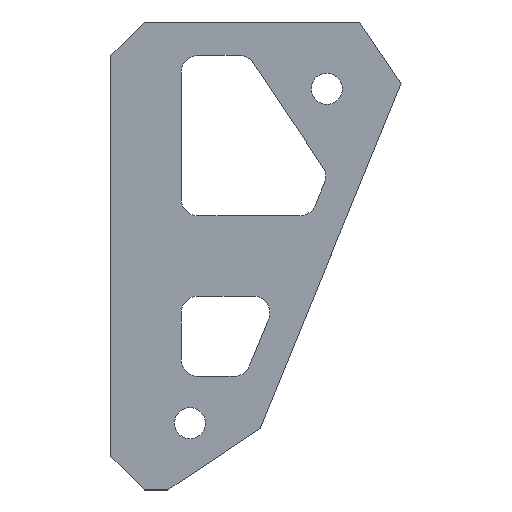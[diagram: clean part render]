
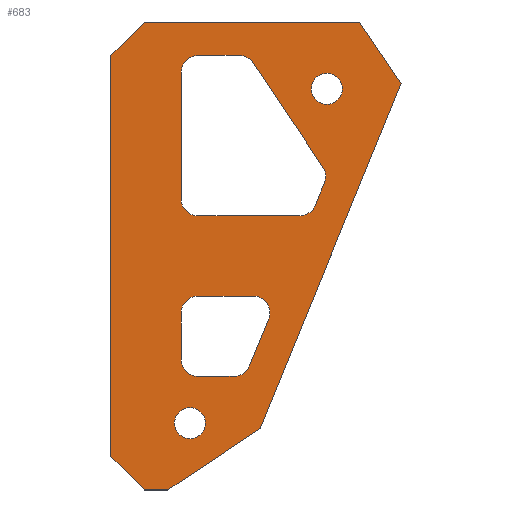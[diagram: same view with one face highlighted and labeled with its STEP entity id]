
A CAD part, top view. The second image highlights one B-rep face of the part: STEP entity #683.
In plain terms, the highlighted planar face has unit normal (0, 0, 1).
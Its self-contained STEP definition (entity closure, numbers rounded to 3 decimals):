
#84=FACE_BOUND('',#170,.T.);
#85=FACE_BOUND('',#171,.T.);
#86=FACE_BOUND('',#172,.T.);
#87=FACE_BOUND('',#173,.T.);
#109=PLANE('',#758);
#139=FACE_OUTER_BOUND('',#169,.T.);
#169=EDGE_LOOP('',(#588,#589,#590,#591,#592,#593,#594,#595));
#170=EDGE_LOOP('',(#596));
#171=EDGE_LOOP('',(#597));
#172=EDGE_LOOP('',(#598,#599,#600,#601,#602,#603,#604,#605,#606,#607));
#173=EDGE_LOOP('',(#608,#609,#610,#611,#612,#613,#614,#615));
#182=LINE('',#987,#244);
#186=LINE('',#999,#248);
#190=LINE('',#1011,#252);
#194=LINE('',#1021,#256);
#198=LINE('',#1035,#260);
#202=LINE('',#1047,#264);
#206=LINE('',#1059,#268);
#210=LINE('',#1071,#272);
#214=LINE('',#1081,#276);
#219=LINE('',#1101,#281);
#222=LINE('',#1107,#284);
#225=LINE('',#1113,#287);
#228=LINE('',#1119,#290);
#231=LINE('',#1125,#293);
#234=LINE('',#1131,#296);
#237=LINE('',#1137,#299);
#240=LINE('',#1141,#302);
#244=VECTOR('',#788,10.);
#248=VECTOR('',#800,10.);
#252=VECTOR('',#812,10.);
#256=VECTOR('',#824,10.);
#260=VECTOR('',#836,10.);
#264=VECTOR('',#848,10.);
#268=VECTOR('',#860,10.);
#272=VECTOR('',#872,10.);
#276=VECTOR('',#884,10.);
#281=VECTOR('',#903,10.);
#284=VECTOR('',#908,10.);
#287=VECTOR('',#913,10.);
#290=VECTOR('',#918,10.);
#293=VECTOR('',#923,10.);
#296=VECTOR('',#928,10.);
#299=VECTOR('',#933,10.);
#302=VECTOR('',#938,10.);
#304=CIRCLE('',#710,5.);
#306=CIRCLE('',#714,5.);
#308=CIRCLE('',#718,5.);
#310=CIRCLE('',#722,5.);
#312=CIRCLE('',#726,5.);
#314=CIRCLE('',#730,5.);
#316=CIRCLE('',#734,5.);
#318=CIRCLE('',#738,5.);
#320=CIRCLE('',#742,5.);
#321=CIRCLE('',#745,4.65);
#323=CIRCLE('',#748,4.65);
#338=VERTEX_POINT('',#978);
#339=VERTEX_POINT('',#980);
#341=VERTEX_POINT('',#986);
#343=VERTEX_POINT('',#992);
#345=VERTEX_POINT('',#998);
#347=VERTEX_POINT('',#1004);
#349=VERTEX_POINT('',#1010);
#351=VERTEX_POINT('',#1016);
#354=VERTEX_POINT('',#1026);
#355=VERTEX_POINT('',#1028);
#357=VERTEX_POINT('',#1034);
#359=VERTEX_POINT('',#1040);
#361=VERTEX_POINT('',#1046);
#363=VERTEX_POINT('',#1052);
#365=VERTEX_POINT('',#1058);
#367=VERTEX_POINT('',#1064);
#369=VERTEX_POINT('',#1070);
#371=VERTEX_POINT('',#1076);
#372=VERTEX_POINT('',#1083);
#374=VERTEX_POINT('',#1089);
#378=VERTEX_POINT('',#1098);
#379=VERTEX_POINT('',#1100);
#381=VERTEX_POINT('',#1106);
#383=VERTEX_POINT('',#1112);
#385=VERTEX_POINT('',#1118);
#387=VERTEX_POINT('',#1124);
#389=VERTEX_POINT('',#1130);
#391=VERTEX_POINT('',#1136);
#394=EDGE_CURVE('',#339,#338,#304,.T.);
#397=EDGE_CURVE('',#341,#339,#182,.T.);
#400=EDGE_CURVE('',#343,#341,#306,.T.);
#403=EDGE_CURVE('',#345,#343,#186,.T.);
#406=EDGE_CURVE('',#347,#345,#308,.T.);
#409=EDGE_CURVE('',#349,#347,#190,.T.);
#412=EDGE_CURVE('',#351,#349,#310,.T.);
#415=EDGE_CURVE('',#338,#351,#194,.T.);
#418=EDGE_CURVE('',#355,#354,#312,.T.);
#421=EDGE_CURVE('',#357,#355,#198,.T.);
#424=EDGE_CURVE('',#359,#357,#314,.T.);
#427=EDGE_CURVE('',#361,#359,#202,.T.);
#430=EDGE_CURVE('',#363,#361,#316,.T.);
#433=EDGE_CURVE('',#365,#363,#206,.T.);
#436=EDGE_CURVE('',#367,#365,#318,.T.);
#439=EDGE_CURVE('',#369,#367,#210,.T.);
#442=EDGE_CURVE('',#371,#369,#320,.T.);
#445=EDGE_CURVE('',#354,#371,#214,.T.);
#446=EDGE_CURVE('',#372,#372,#321,.T.);
#449=EDGE_CURVE('',#374,#374,#323,.T.);
#454=EDGE_CURVE('',#379,#378,#219,.T.);
#457=EDGE_CURVE('',#381,#379,#222,.T.);
#460=EDGE_CURVE('',#383,#381,#225,.T.);
#463=EDGE_CURVE('',#385,#383,#228,.T.);
#466=EDGE_CURVE('',#387,#385,#231,.T.);
#469=EDGE_CURVE('',#389,#387,#234,.T.);
#472=EDGE_CURVE('',#391,#389,#237,.T.);
#475=EDGE_CURVE('',#378,#391,#240,.T.);
#588=ORIENTED_EDGE('',*,*,#475,.T.);
#589=ORIENTED_EDGE('',*,*,#472,.T.);
#590=ORIENTED_EDGE('',*,*,#469,.T.);
#591=ORIENTED_EDGE('',*,*,#466,.T.);
#592=ORIENTED_EDGE('',*,*,#463,.T.);
#593=ORIENTED_EDGE('',*,*,#460,.T.);
#594=ORIENTED_EDGE('',*,*,#457,.T.);
#595=ORIENTED_EDGE('',*,*,#454,.T.);
#596=ORIENTED_EDGE('',*,*,#449,.T.);
#597=ORIENTED_EDGE('',*,*,#446,.T.);
#598=ORIENTED_EDGE('',*,*,#445,.T.);
#599=ORIENTED_EDGE('',*,*,#442,.T.);
#600=ORIENTED_EDGE('',*,*,#439,.T.);
#601=ORIENTED_EDGE('',*,*,#436,.T.);
#602=ORIENTED_EDGE('',*,*,#433,.T.);
#603=ORIENTED_EDGE('',*,*,#430,.T.);
#604=ORIENTED_EDGE('',*,*,#427,.T.);
#605=ORIENTED_EDGE('',*,*,#424,.T.);
#606=ORIENTED_EDGE('',*,*,#421,.T.);
#607=ORIENTED_EDGE('',*,*,#418,.T.);
#608=ORIENTED_EDGE('',*,*,#415,.T.);
#609=ORIENTED_EDGE('',*,*,#412,.T.);
#610=ORIENTED_EDGE('',*,*,#409,.T.);
#611=ORIENTED_EDGE('',*,*,#406,.T.);
#612=ORIENTED_EDGE('',*,*,#403,.T.);
#613=ORIENTED_EDGE('',*,*,#400,.T.);
#614=ORIENTED_EDGE('',*,*,#397,.T.);
#615=ORIENTED_EDGE('',*,*,#394,.T.);
#683=ADVANCED_FACE('',(#139,#84,#85,#86,#87),#109,.T.);
#710=AXIS2_PLACEMENT_3D('',#981,#782,#783);
#714=AXIS2_PLACEMENT_3D('',#993,#794,#795);
#718=AXIS2_PLACEMENT_3D('',#1005,#806,#807);
#722=AXIS2_PLACEMENT_3D('',#1017,#818,#819);
#726=AXIS2_PLACEMENT_3D('',#1029,#830,#831);
#730=AXIS2_PLACEMENT_3D('',#1041,#842,#843);
#734=AXIS2_PLACEMENT_3D('',#1053,#854,#855);
#738=AXIS2_PLACEMENT_3D('',#1065,#866,#867);
#742=AXIS2_PLACEMENT_3D('',#1077,#878,#879);
#745=AXIS2_PLACEMENT_3D('',#1084,#887,#888);
#748=AXIS2_PLACEMENT_3D('',#1090,#894,#895);
#758=AXIS2_PLACEMENT_3D('',#1142,#939,#940);
#782=DIRECTION('center_axis',(0.,0.,-1.));
#783=DIRECTION('ref_axis',(1.,0.,0.));
#788=DIRECTION('',(-1.,0.,0.));
#794=DIRECTION('center_axis',(0.,0.,-1.));
#795=DIRECTION('ref_axis',(0.,1.,0.));
#800=DIRECTION('',(-0.379,-0.925,0.));
#806=DIRECTION('center_axis',(0.,0.,-1.));
#807=DIRECTION('ref_axis',(-0.925,0.379,0.));
#812=DIRECTION('',(1.,0.,0.));
#818=DIRECTION('center_axis',(0.,0.,-1.));
#819=DIRECTION('ref_axis',(0.,-1.,0.));
#824=DIRECTION('',(0.,1.,0.));
#830=DIRECTION('center_axis',(0.,0.,-1.));
#831=DIRECTION('ref_axis',(-0.925,0.379,0.));
#836=DIRECTION('',(0.557,-0.83,0.));
#842=DIRECTION('center_axis',(0.,0.,-1.));
#843=DIRECTION('ref_axis',(-0.83,-0.557,0.));
#848=DIRECTION('',(1.,0.,0.));
#854=DIRECTION('center_axis',(0.,0.,-1.));
#855=DIRECTION('ref_axis',(0.,-1.,0.));
#860=DIRECTION('',(0.,1.,0.));
#866=DIRECTION('center_axis',(0.,0.,-1.));
#867=DIRECTION('ref_axis',(1.,0.,0.));
#872=DIRECTION('',(-1.,0.,0.));
#878=DIRECTION('center_axis',(0.,0.,-1.));
#879=DIRECTION('ref_axis',(0.,1.,0.));
#884=DIRECTION('',(-0.379,-0.925,0.));
#887=DIRECTION('center_axis',(0.,0.,-1.));
#888=DIRECTION('ref_axis',(-1.,0.,0.));
#894=DIRECTION('center_axis',(0.,0.,-1.));
#895=DIRECTION('ref_axis',(-1.,0.,0.));
#903=DIRECTION('',(1.,0.,0.));
#908=DIRECTION('',(0.707,-0.707,0.));
#913=DIRECTION('',(0.,-1.,0.));
#918=DIRECTION('',(-0.707,-0.707,0.));
#923=DIRECTION('',(-1.,0.,0.));
#928=DIRECTION('',(-0.557,0.83,0.));
#933=DIRECTION('',(0.379,0.925,0.));
#938=DIRECTION('',(0.83,0.557,0.));
#939=DIRECTION('center_axis',(0.,0.,1.));
#940=DIRECTION('ref_axis',(1.,0.,0.));
#978=CARTESIAN_POINT('',(-1.5,-101.,0.25));
#980=CARTESIAN_POINT('',(3.5,-106.,0.25));
#981=CARTESIAN_POINT('Origin',(3.5,-101.,0.25));
#986=CARTESIAN_POINT('',(14.324,-106.,0.25));
#987=CARTESIAN_POINT('',(14.324,-106.,0.25));
#992=CARTESIAN_POINT('',(18.952,-102.894,0.25));
#993=CARTESIAN_POINT('Origin',(14.324,-101.,0.25));
#998=CARTESIAN_POINT('',(24.682,-88.894,0.25));
#999=CARTESIAN_POINT('',(24.682,-88.894,0.25));
#1004=CARTESIAN_POINT('',(20.055,-82.,0.25));
#1005=CARTESIAN_POINT('Origin',(20.055,-87.,0.25));
#1010=CARTESIAN_POINT('',(3.5,-82.,0.25));
#1011=CARTESIAN_POINT('',(3.5,-82.,0.25));
#1016=CARTESIAN_POINT('',(-1.5,-87.,0.25));
#1017=CARTESIAN_POINT('Origin',(3.5,-87.,0.25));
#1021=CARTESIAN_POINT('',(-1.5,-101.,0.25));
#1026=CARTESIAN_POINT('',(41.391,-48.072,0.25));
#1028=CARTESIAN_POINT('',(40.915,-43.391,0.25));
#1029=CARTESIAN_POINT('Origin',(36.764,-46.178,0.25));
#1034=CARTESIAN_POINT('',(19.989,-12.213,0.25));
#1035=CARTESIAN_POINT('',(19.989,-12.213,0.25));
#1040=CARTESIAN_POINT('',(15.837,-10.,0.25));
#1041=CARTESIAN_POINT('Origin',(15.837,-15.,0.25));
#1046=CARTESIAN_POINT('',(3.5,-10.,0.25));
#1047=CARTESIAN_POINT('',(3.5,-10.,0.25));
#1052=CARTESIAN_POINT('',(-1.5,-15.,0.25));
#1053=CARTESIAN_POINT('Origin',(3.5,-15.,0.25));
#1058=CARTESIAN_POINT('',(-1.5,-53.,0.25));
#1059=CARTESIAN_POINT('',(-1.5,-53.,0.25));
#1064=CARTESIAN_POINT('',(3.5,-58.,0.25));
#1065=CARTESIAN_POINT('Origin',(3.5,-53.,0.25));
#1070=CARTESIAN_POINT('',(33.972,-58.,0.25));
#1071=CARTESIAN_POINT('',(33.972,-58.,0.25));
#1076=CARTESIAN_POINT('',(38.599,-54.894,0.25));
#1077=CARTESIAN_POINT('Origin',(33.972,-53.,0.25));
#1081=CARTESIAN_POINT('',(41.391,-48.072,0.25));
#1083=CARTESIAN_POINT('',(46.726,-20.,0.25));
#1084=CARTESIAN_POINT('Origin',(42.076,-20.,0.25));
#1089=CARTESIAN_POINT('',(5.795,-120.,0.25));
#1090=CARTESIAN_POINT('Origin',(1.145,-120.,0.25));
#1098=CARTESIAN_POINT('',(-5.431,-140.,0.25));
#1100=CARTESIAN_POINT('',(-12.5,-140.,0.25));
#1101=CARTESIAN_POINT('',(-12.5,-140.,0.25));
#1106=CARTESIAN_POINT('',(-22.5,-130.,0.25));
#1107=CARTESIAN_POINT('',(-22.5,-130.,0.25));
#1112=CARTESIAN_POINT('',(-22.5,-10.,0.25));
#1113=CARTESIAN_POINT('',(-22.5,-10.,0.25));
#1118=CARTESIAN_POINT('',(-12.5,0.,0.25));
#1119=CARTESIAN_POINT('',(-12.5,0.,0.25));
#1124=CARTESIAN_POINT('',(51.873,0.,0.25));
#1125=CARTESIAN_POINT('',(51.873,0.,0.25));
#1130=CARTESIAN_POINT('',(64.297,-18.509,0.25));
#1131=CARTESIAN_POINT('',(64.297,-18.509,0.25));
#1136=CARTESIAN_POINT('',(22.145,-121.491,0.25));
#1137=CARTESIAN_POINT('',(22.145,-121.491,0.25));
#1141=CARTESIAN_POINT('',(-5.431,-140.,0.25));
#1142=CARTESIAN_POINT('Origin',(20.898,-70.,0.25));
